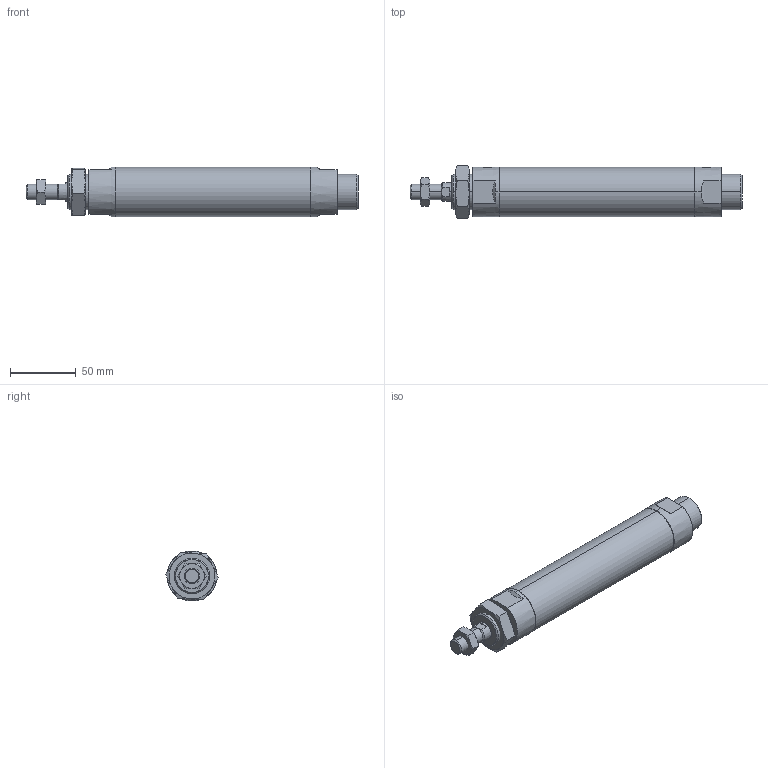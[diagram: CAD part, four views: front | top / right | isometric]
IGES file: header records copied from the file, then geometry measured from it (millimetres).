
Start section: SolidWorks IGES file using analytic representation for surfaces
Global section: file name: C:\Users\Toshiba\Desktop\J#2-32-100-N.IGS; native system: SolidWorks 2014; preprocessor: SolidWorks 2014; author: Toshiba; date: 160308.153717; units: millimetre
Bounding box: 253 x 40.33 x 38 mm (x, y, z)
Surface area: 33834.6 mm2 (no closed solid volume)
Topology: 0 solids, 0 shells, 94 faces, 1652 edges, 1648 vertices
Faces by surface type: bspline 57, revolution 37
